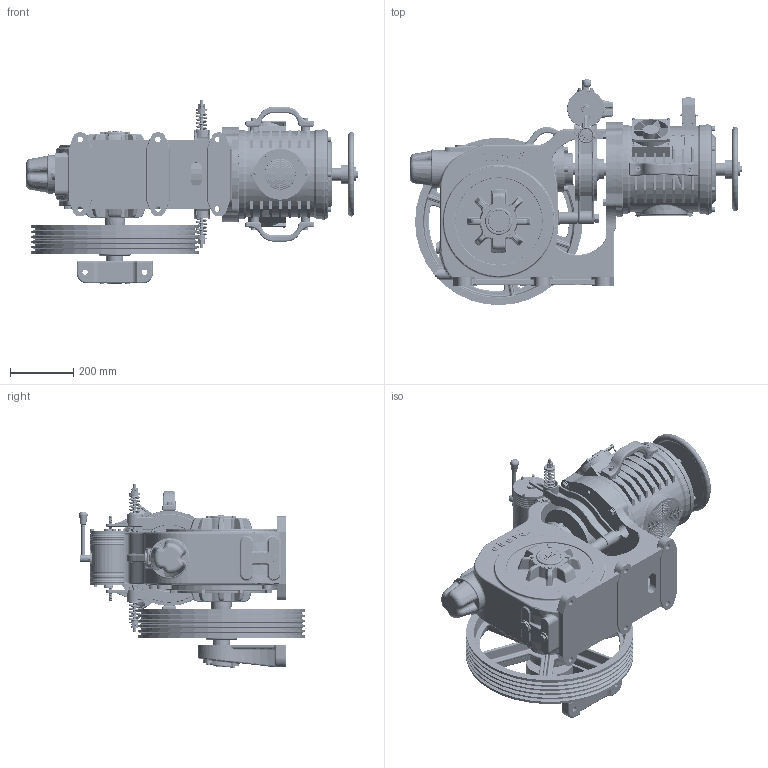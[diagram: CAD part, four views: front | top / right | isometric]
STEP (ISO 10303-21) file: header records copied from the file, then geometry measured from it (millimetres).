
FILE_DESCRIPTION (( 'STEP AP214' ), '1' );
FILE_NAME ('STP9016021.STEP', '2026-01-22T07:27:21', ( '' ), ( '' ), 'SwSTEP 2.0', 'SolidWorks 2023', '' );
FILE_SCHEMA (( 'AUTOMOTIVE_DESIGN' ));
Length unit declared in the file: millimetre
Products named in the file (1): STP9016021
Bounding box: 1050.82 x 715.62 x 581.29 mm (x, y, z)
Volume: 64414434.7 mm3; surface area: 5043795.5 mm2
Topology: 97 solids, 124 shells, 9099 faces, 22759 edges, 14042 vertices
Faces by surface type: cylinder 3444, plane 2524, bspline 1045, cone 968, torus 890, sphere 228
Entity records: 520637 total; most frequent: CARTESIAN_POINT 317566, ORIENTED_EDGE 45174, DIRECTION 39364, EDGE_CURVE 22587, AXIS2_PLACEMENT_3D 15558, VERTEX_POINT 14028, EDGE_LOOP 9859, FACE_OUTER_BOUND 9099
